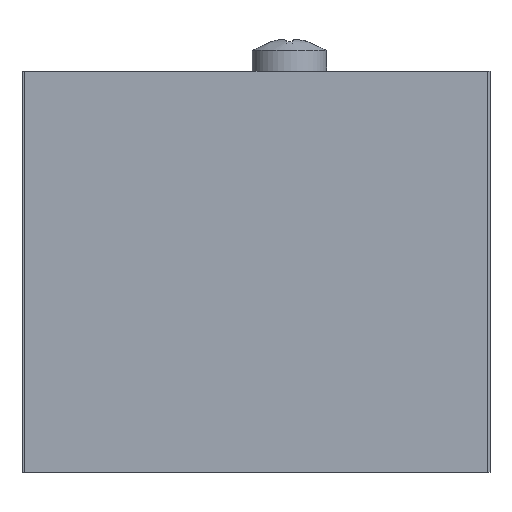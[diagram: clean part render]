
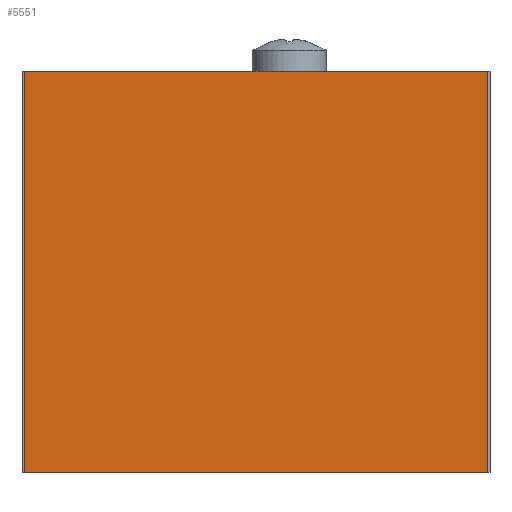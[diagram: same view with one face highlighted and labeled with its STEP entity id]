
A CAD part, left-side view. The second image highlights one B-rep face of the part: STEP entity #5551.
In plain terms, the highlighted free-form (B-spline) face has degree [1, 1] with [2, 2] control points.
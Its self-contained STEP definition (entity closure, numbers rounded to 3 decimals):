
#5489=CARTESIAN_POINT('V17',(0.,34.6,-15.0)
   );
#5490=VERTEX_POINT('V17',#5489);
#5496=CARTESIAN_POINT('V11',(0.,34.6,15.0)
   );
#5497=VERTEX_POINT('V11',#5496);
#5498=CARTESIAN_POINT('E33',(0.,34.6,15.0)
   );
#5499=CARTESIAN_POINT('E33',(0.,34.6,-15.0)
   );
#5500=QUASI_UNIFORM_CURVE('E33',1,(#5498,#5499),.POLYLINE_FORM.,.F.,
   .U.);
#5501=EDGE_CURVE('E33',#5497,#5490,#5500,.T.);
#5524=CARTESIAN_POINT('F45',(0.,34.6,-15.0)
   );
#5525=CARTESIAN_POINT('F45',(0.0,0.0,-15.0));
#5526=CARTESIAN_POINT('F45',(0.,34.6,15.0)
   );
#5527=CARTESIAN_POINT('F45',(0.0,0.0,15.0));
#5528=B_SPLINE_SURFACE_WITH_KNOTS('F45',1,1,((#5524,#5526),(#5525,
   #5527)),.PLANE_SURF.,.F.,.F.,.U.,(2,2),(2,2),(0.0,
   1.153),(0.0,1.0),.UNSPECIFIED.);
#5529=CARTESIAN_POINT('V16',(0.0,0.0,-15.0));
#5530=VERTEX_POINT('V16',#5529);
#5531=CARTESIAN_POINT('E19',(0.,34.6,-15.0)
   );
#5532=CARTESIAN_POINT('E19',(0.0,0.0,-15.0));
#5533=B_SPLINE_CURVE_WITH_KNOTS('E19',1,(#5531,#5532),
   .POLYLINE_FORM.,.F.,.U.,(2,2),(0.0,1.153),
   .UNSPECIFIED.);
#5534=EDGE_CURVE('E19',#5490,#5530,#5533,.T.);
#5535=ORIENTED_EDGE('E19',*,*,#5534,.T.);
#5536=CARTESIAN_POINT('V12',(0.0,0.0,15.0));
#5537=VERTEX_POINT('V12',#5536);
#5538=CARTESIAN_POINT('E38',(0.0,0.0,-15.0));
#5539=CARTESIAN_POINT('E38',(0.0,0.0,15.0));
#5540=QUASI_UNIFORM_CURVE('E38',1,(#5538,#5539),.POLYLINE_FORM.,.F.,
   .U.);
#5541=EDGE_CURVE('E38',#5530,#5537,#5540,.T.);
#5542=ORIENTED_EDGE('E38',*,*,#5541,.T.);
#5543=CARTESIAN_POINT('E12',(0.0,0.0,15.0));
#5544=CARTESIAN_POINT('E12',(0.,34.6,15.0)
   );
#5545=B_SPLINE_CURVE_WITH_KNOTS('E12',1,(#5543,#5544),
   .POLYLINE_FORM.,.F.,.U.,(2,2),(0.0,1.153),
   .UNSPECIFIED.);
#5546=EDGE_CURVE('E12',#5537,#5497,#5545,.T.);
#5547=ORIENTED_EDGE('E12',*,*,#5546,.T.);
#5548=ORIENTED_EDGE('E33',*,*,#5501,.T.);
#5549=EDGE_LOOP('F45',(#5535,#5542,#5547,#5548));
#5550=FACE_OUTER_BOUND('F45',#5549,.T.);
#5551=ADVANCED_FACE('F45',(#5550),#5528,.T.);
